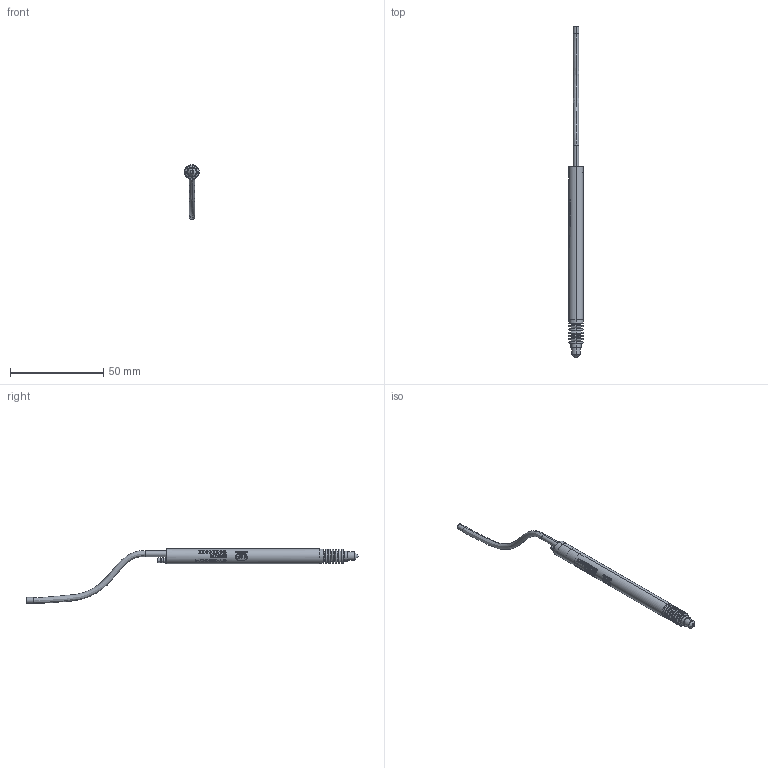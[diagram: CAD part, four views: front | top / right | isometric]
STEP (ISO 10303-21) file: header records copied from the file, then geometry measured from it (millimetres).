
FILE_DESCRIPTION((''),'2;1');
FILE_NAME('2613073','2013-04-11T',('11000205'),(''),'PRO/ENGINEER BY PARAMETRIC TECHNOLOGY CORPORATION, 2012480','PRO/ENGINEER BY PARAMETRIC TECHNOLOGY CORPORATION, 2012480','');
FILE_SCHEMA(('AUTOMOTIVE_DESIGN { 1 0 10303 214 1 1 1 1 }'));
Products named in the file (1): 2613073
Bounding box: 8 x 178.35 x 29.29 mm (x, y, z)
Volume: 2166.9 mm3; surface area: 6188.4 mm2
Topology: 1 solids, 3 shells, 1229 faces, 3248 edges, 2105 vertices
Faces by surface type: plane 880, cylinder 138, torus 74, cone 72, extrusion 35, bspline 28, sphere 2
Entity records: 52122 total; most frequent: CARTESIAN_POINT 14025, ORIENTED_EDGE 6492, DIRECTION 5030, EDGE_CURVE 3246, VERTEX_POINT 2105, AXIS2_PLACEMENT_3D 1792, VECTOR 1446, LINE 1411
